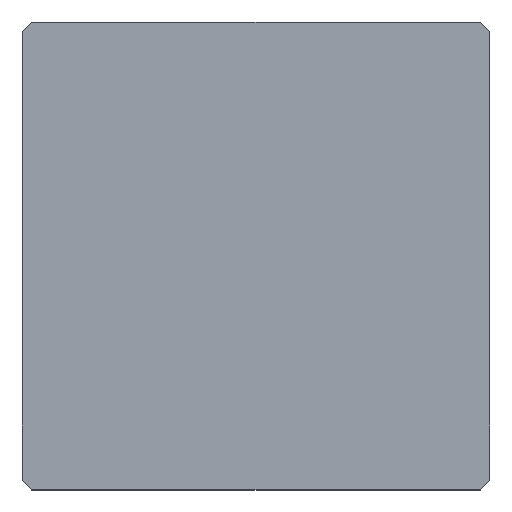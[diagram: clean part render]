
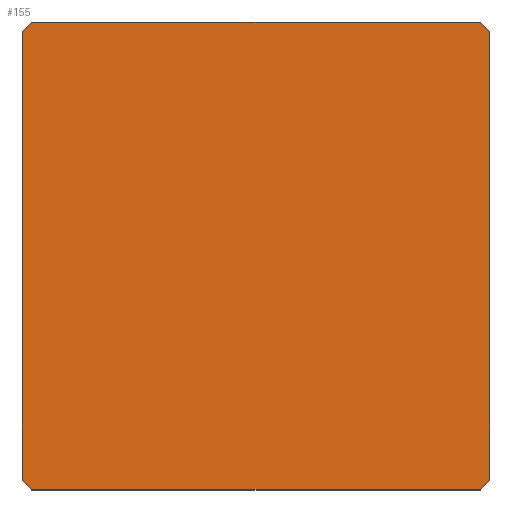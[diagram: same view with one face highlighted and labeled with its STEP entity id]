
A CAD part, top view. The second image highlights one B-rep face of the part: STEP entity #155.
In plain terms, the highlighted planar face has unit normal (0, 0, 1).
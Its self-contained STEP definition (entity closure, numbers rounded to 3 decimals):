
#39 = EDGE_CURVE('',#40,#42,#44,.T.);
#40 = VERTEX_POINT('',#41);
#41 = CARTESIAN_POINT('',(-10.,-9.6,13.75));
#42 = VERTEX_POINT('',#43);
#43 = CARTESIAN_POINT('',(-10.,9.6,13.75));
#44 = SURFACE_CURVE('',#45,(#49,#61),.PCURVE_S1.);
#45 = LINE('',#46,#47);
#46 = CARTESIAN_POINT('',(-10.,-10.,13.75));
#47 = VECTOR('',#48,1.);
#48 = DIRECTION('',(-0.,1.,0.));
#49 = PCURVE('',#50,#55);
#50 = PLANE('',#51);
#51 = AXIS2_PLACEMENT_3D('',#52,#53,#54);
#52 = CARTESIAN_POINT('',(-10.,-10.,0.));
#53 = DIRECTION('',(1.,0.,-0.));
#54 = DIRECTION('',(0.,0.,1.));
#55 = DEFINITIONAL_REPRESENTATION('',(#56),#60);
#56 = LINE('',#57,#58);
#57 = CARTESIAN_POINT('',(13.75,0.));
#58 = VECTOR('',#59,1.);
#59 = DIRECTION('',(0.,-1.));
#60 = ( GEOMETRIC_REPRESENTATION_CONTEXT(2) 
PARAMETRIC_REPRESENTATION_CONTEXT() REPRESENTATION_CONTEXT('2D SPACE',''
  ) );
#61 = PCURVE('',#62,#67);
#62 = PLANE('',#63);
#63 = AXIS2_PLACEMENT_3D('',#64,#65,#66);
#64 = CARTESIAN_POINT('',(-10.,-10.,13.75));
#65 = DIRECTION('',(0.,0.,1.));
#66 = DIRECTION('',(1.,0.,-0.));
#67 = DEFINITIONAL_REPRESENTATION('',(#68),#72);
#68 = LINE('',#69,#70);
#69 = CARTESIAN_POINT('',(0.,0.));
#70 = VECTOR('',#71,1.);
#71 = DIRECTION('',(0.,1.));
#72 = ( GEOMETRIC_REPRESENTATION_CONTEXT(2) 
PARAMETRIC_REPRESENTATION_CONTEXT() REPRESENTATION_CONTEXT('2D SPACE',''
  ) );
#90 = PLANE('',#91);
#91 = AXIS2_PLACEMENT_3D('',#92,#93,#94);
#92 = CARTESIAN_POINT('',(-9.8,-9.8,0.));
#93 = DIRECTION('',(-0.707,-0.707,0.));
#94 = DIRECTION('',(-0.,-0.,-1.));
#144 = PLANE('',#145);
#145 = AXIS2_PLACEMENT_3D('',#146,#147,#148);
#146 = CARTESIAN_POINT('',(-9.8,9.8,0.));
#147 = DIRECTION('',(0.707,-0.707,0.));
#148 = DIRECTION('',(-0.,-0.,-1.));
#155 = ADVANCED_FACE('',(#156),#62,.T.);
#156 = FACE_BOUND('',#157,.T.);
#157 = EDGE_LOOP('',(#158,#159,#182,#210,#238,#266,#294,#322));
#158 = ORIENTED_EDGE('',*,*,#39,.F.);
#159 = ORIENTED_EDGE('',*,*,#160,.T.);
#160 = EDGE_CURVE('',#40,#161,#163,.T.);
#161 = VERTEX_POINT('',#162);
#162 = CARTESIAN_POINT('',(-9.6,-10.,13.75));
#163 = SURFACE_CURVE('',#164,(#168,#175),.PCURVE_S1.);
#164 = LINE('',#165,#166);
#165 = CARTESIAN_POINT('',(-9.8,-9.8,13.75));
#166 = VECTOR('',#167,1.);
#167 = DIRECTION('',(0.707,-0.707,0.));
#168 = PCURVE('',#62,#169);
#169 = DEFINITIONAL_REPRESENTATION('',(#170),#174);
#170 = LINE('',#171,#172);
#171 = CARTESIAN_POINT('',(0.2,0.2));
#172 = VECTOR('',#173,1.);
#173 = DIRECTION('',(0.707,-0.707));
#174 = ( GEOMETRIC_REPRESENTATION_CONTEXT(2) 
PARAMETRIC_REPRESENTATION_CONTEXT() REPRESENTATION_CONTEXT('2D SPACE',''
  ) );
#175 = PCURVE('',#90,#176);
#176 = DEFINITIONAL_REPRESENTATION('',(#177),#181);
#177 = LINE('',#178,#179);
#178 = CARTESIAN_POINT('',(-13.75,0.));
#179 = VECTOR('',#180,1.);
#180 = DIRECTION('',(-0.,1.));
#181 = ( GEOMETRIC_REPRESENTATION_CONTEXT(2) 
PARAMETRIC_REPRESENTATION_CONTEXT() REPRESENTATION_CONTEXT('2D SPACE',''
  ) );
#182 = ORIENTED_EDGE('',*,*,#183,.T.);
#183 = EDGE_CURVE('',#161,#184,#186,.T.);
#184 = VERTEX_POINT('',#185);
#185 = CARTESIAN_POINT('',(9.6,-10.,13.75));
#186 = SURFACE_CURVE('',#187,(#191,#198),.PCURVE_S1.);
#187 = LINE('',#188,#189);
#188 = CARTESIAN_POINT('',(-10.,-10.,13.75));
#189 = VECTOR('',#190,1.);
#190 = DIRECTION('',(1.,0.,-0.));
#191 = PCURVE('',#62,#192);
#192 = DEFINITIONAL_REPRESENTATION('',(#193),#197);
#193 = LINE('',#194,#195);
#194 = CARTESIAN_POINT('',(0.,0.));
#195 = VECTOR('',#196,1.);
#196 = DIRECTION('',(1.,0.));
#197 = ( GEOMETRIC_REPRESENTATION_CONTEXT(2) 
PARAMETRIC_REPRESENTATION_CONTEXT() REPRESENTATION_CONTEXT('2D SPACE',''
  ) );
#198 = PCURVE('',#199,#204);
#199 = PLANE('',#200);
#200 = AXIS2_PLACEMENT_3D('',#201,#202,#203);
#201 = CARTESIAN_POINT('',(-10.,-10.,0.));
#202 = DIRECTION('',(-0.,1.,0.));
#203 = DIRECTION('',(0.,0.,1.));
#204 = DEFINITIONAL_REPRESENTATION('',(#205),#209);
#205 = LINE('',#206,#207);
#206 = CARTESIAN_POINT('',(13.75,0.));
#207 = VECTOR('',#208,1.);
#208 = DIRECTION('',(0.,1.));
#209 = ( GEOMETRIC_REPRESENTATION_CONTEXT(2) 
PARAMETRIC_REPRESENTATION_CONTEXT() REPRESENTATION_CONTEXT('2D SPACE',''
  ) );
#210 = ORIENTED_EDGE('',*,*,#211,.F.);
#211 = EDGE_CURVE('',#212,#184,#214,.T.);
#212 = VERTEX_POINT('',#213);
#213 = CARTESIAN_POINT('',(10.,-9.6,13.75));
#214 = SURFACE_CURVE('',#215,(#219,#226),.PCURVE_S1.);
#215 = LINE('',#216,#217);
#216 = CARTESIAN_POINT('',(4.8,-14.8,13.75));
#217 = VECTOR('',#218,1.);
#218 = DIRECTION('',(-0.707,-0.707,0.));
#219 = PCURVE('',#62,#220);
#220 = DEFINITIONAL_REPRESENTATION('',(#221),#225);
#221 = LINE('',#222,#223);
#222 = CARTESIAN_POINT('',(14.8,-4.8));
#223 = VECTOR('',#224,1.);
#224 = DIRECTION('',(-0.707,-0.707));
#225 = ( GEOMETRIC_REPRESENTATION_CONTEXT(2) 
PARAMETRIC_REPRESENTATION_CONTEXT() REPRESENTATION_CONTEXT('2D SPACE',''
  ) );
#226 = PCURVE('',#227,#232);
#227 = PLANE('',#228);
#228 = AXIS2_PLACEMENT_3D('',#229,#230,#231);
#229 = CARTESIAN_POINT('',(9.8,-9.8,0.));
#230 = DIRECTION('',(-0.707,0.707,0.));
#231 = DIRECTION('',(-0.,-0.,-1.));
#232 = DEFINITIONAL_REPRESENTATION('',(#233),#237);
#233 = LINE('',#234,#235);
#234 = CARTESIAN_POINT('',(-13.75,7.071));
#235 = VECTOR('',#236,1.);
#236 = DIRECTION('',(-0.,1.));
#237 = ( GEOMETRIC_REPRESENTATION_CONTEXT(2) 
PARAMETRIC_REPRESENTATION_CONTEXT() REPRESENTATION_CONTEXT('2D SPACE',''
  ) );
#238 = ORIENTED_EDGE('',*,*,#239,.T.);
#239 = EDGE_CURVE('',#212,#240,#242,.T.);
#240 = VERTEX_POINT('',#241);
#241 = CARTESIAN_POINT('',(10.,9.6,13.75));
#242 = SURFACE_CURVE('',#243,(#247,#254),.PCURVE_S1.);
#243 = LINE('',#244,#245);
#244 = CARTESIAN_POINT('',(10.,-10.,13.75));
#245 = VECTOR('',#246,1.);
#246 = DIRECTION('',(-0.,1.,0.));
#247 = PCURVE('',#62,#248);
#248 = DEFINITIONAL_REPRESENTATION('',(#249),#253);
#249 = LINE('',#250,#251);
#250 = CARTESIAN_POINT('',(20.,0.));
#251 = VECTOR('',#252,1.);
#252 = DIRECTION('',(0.,1.));
#253 = ( GEOMETRIC_REPRESENTATION_CONTEXT(2) 
PARAMETRIC_REPRESENTATION_CONTEXT() REPRESENTATION_CONTEXT('2D SPACE',''
  ) );
#254 = PCURVE('',#255,#260);
#255 = PLANE('',#256);
#256 = AXIS2_PLACEMENT_3D('',#257,#258,#259);
#257 = CARTESIAN_POINT('',(10.,-10.,0.));
#258 = DIRECTION('',(1.,0.,-0.));
#259 = DIRECTION('',(0.,0.,1.));
#260 = DEFINITIONAL_REPRESENTATION('',(#261),#265);
#261 = LINE('',#262,#263);
#262 = CARTESIAN_POINT('',(13.75,0.));
#263 = VECTOR('',#264,1.);
#264 = DIRECTION('',(0.,-1.));
#265 = ( GEOMETRIC_REPRESENTATION_CONTEXT(2) 
PARAMETRIC_REPRESENTATION_CONTEXT() REPRESENTATION_CONTEXT('2D SPACE',''
  ) );
#266 = ORIENTED_EDGE('',*,*,#267,.T.);
#267 = EDGE_CURVE('',#240,#268,#270,.T.);
#268 = VERTEX_POINT('',#269);
#269 = CARTESIAN_POINT('',(9.6,10.,13.75));
#270 = SURFACE_CURVE('',#271,(#275,#282),.PCURVE_S1.);
#271 = LINE('',#272,#273);
#272 = CARTESIAN_POINT('',(9.8,9.8,13.75));
#273 = VECTOR('',#274,1.);
#274 = DIRECTION('',(-0.707,0.707,0.));
#275 = PCURVE('',#62,#276);
#276 = DEFINITIONAL_REPRESENTATION('',(#277),#281);
#277 = LINE('',#278,#279);
#278 = CARTESIAN_POINT('',(19.8,19.8));
#279 = VECTOR('',#280,1.);
#280 = DIRECTION('',(-0.707,0.707));
#281 = ( GEOMETRIC_REPRESENTATION_CONTEXT(2) 
PARAMETRIC_REPRESENTATION_CONTEXT() REPRESENTATION_CONTEXT('2D SPACE',''
  ) );
#282 = PCURVE('',#283,#288);
#283 = PLANE('',#284);
#284 = AXIS2_PLACEMENT_3D('',#285,#286,#287);
#285 = CARTESIAN_POINT('',(9.8,9.8,0.));
#286 = DIRECTION('',(0.707,0.707,0.));
#287 = DIRECTION('',(-0.,0.,-1.));
#288 = DEFINITIONAL_REPRESENTATION('',(#289),#293);
#289 = LINE('',#290,#291);
#290 = CARTESIAN_POINT('',(-13.75,0.));
#291 = VECTOR('',#292,1.);
#292 = DIRECTION('',(-0.,1.));
#293 = ( GEOMETRIC_REPRESENTATION_CONTEXT(2) 
PARAMETRIC_REPRESENTATION_CONTEXT() REPRESENTATION_CONTEXT('2D SPACE',''
  ) );
#294 = ORIENTED_EDGE('',*,*,#295,.F.);
#295 = EDGE_CURVE('',#296,#268,#298,.T.);
#296 = VERTEX_POINT('',#297);
#297 = CARTESIAN_POINT('',(-9.6,10.,13.75));
#298 = SURFACE_CURVE('',#299,(#303,#310),.PCURVE_S1.);
#299 = LINE('',#300,#301);
#300 = CARTESIAN_POINT('',(-10.,10.,13.75));
#301 = VECTOR('',#302,1.);
#302 = DIRECTION('',(1.,0.,-0.));
#303 = PCURVE('',#62,#304);
#304 = DEFINITIONAL_REPRESENTATION('',(#305),#309);
#305 = LINE('',#306,#307);
#306 = CARTESIAN_POINT('',(0.,20.));
#307 = VECTOR('',#308,1.);
#308 = DIRECTION('',(1.,0.));
#309 = ( GEOMETRIC_REPRESENTATION_CONTEXT(2) 
PARAMETRIC_REPRESENTATION_CONTEXT() REPRESENTATION_CONTEXT('2D SPACE',''
  ) );
#310 = PCURVE('',#311,#316);
#311 = PLANE('',#312);
#312 = AXIS2_PLACEMENT_3D('',#313,#314,#315);
#313 = CARTESIAN_POINT('',(-10.,10.,0.));
#314 = DIRECTION('',(-0.,1.,0.));
#315 = DIRECTION('',(0.,0.,1.));
#316 = DEFINITIONAL_REPRESENTATION('',(#317),#321);
#317 = LINE('',#318,#319);
#318 = CARTESIAN_POINT('',(13.75,0.));
#319 = VECTOR('',#320,1.);
#320 = DIRECTION('',(0.,1.));
#321 = ( GEOMETRIC_REPRESENTATION_CONTEXT(2) 
PARAMETRIC_REPRESENTATION_CONTEXT() REPRESENTATION_CONTEXT('2D SPACE',''
  ) );
#322 = ORIENTED_EDGE('',*,*,#323,.F.);
#323 = EDGE_CURVE('',#42,#296,#324,.T.);
#324 = SURFACE_CURVE('',#325,(#329,#336),.PCURVE_S1.);
#325 = LINE('',#326,#327);
#326 = CARTESIAN_POINT('',(-14.8,4.8,13.75));
#327 = VECTOR('',#328,1.);
#328 = DIRECTION('',(0.707,0.707,-0.));
#329 = PCURVE('',#62,#330);
#330 = DEFINITIONAL_REPRESENTATION('',(#331),#335);
#331 = LINE('',#332,#333);
#332 = CARTESIAN_POINT('',(-4.8,14.8));
#333 = VECTOR('',#334,1.);
#334 = DIRECTION('',(0.707,0.707));
#335 = ( GEOMETRIC_REPRESENTATION_CONTEXT(2) 
PARAMETRIC_REPRESENTATION_CONTEXT() REPRESENTATION_CONTEXT('2D SPACE',''
  ) );
#336 = PCURVE('',#144,#337);
#337 = DEFINITIONAL_REPRESENTATION('',(#338),#342);
#338 = LINE('',#339,#340);
#339 = CARTESIAN_POINT('',(-13.75,-7.071));
#340 = VECTOR('',#341,1.);
#341 = DIRECTION('',(-0.,1.));
#342 = ( GEOMETRIC_REPRESENTATION_CONTEXT(2) 
PARAMETRIC_REPRESENTATION_CONTEXT() REPRESENTATION_CONTEXT('2D SPACE',''
  ) );
